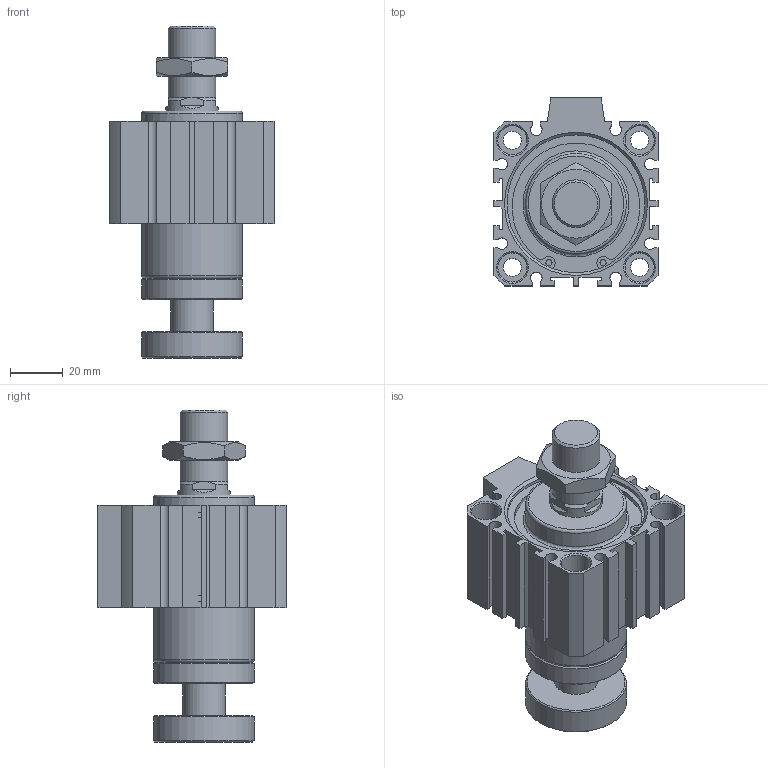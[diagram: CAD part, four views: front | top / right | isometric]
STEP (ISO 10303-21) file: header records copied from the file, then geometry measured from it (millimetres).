
FILE_DESCRIPTION((''),'2;1');
FILE_NAME('I:\3D電子目錄\氣缸\JDAR\JDAR-B\JDAR50-B\JDAR50x10-B.stp','2007-03-22T15:30:45',('662F206'),(''),'Autodesk Inventor 11','Autodesk Inventor 11','');
FILE_SCHEMA(('AUTOMOTIVE_DESIGN { 1 0 10303 214 1 1 1 1 }'));
Length unit declared in the file: millimetre
Products named in the file (3): JDAR50-B; R 形環 52
Assembly tree (3 placements, depth 2):
  JDAR50-B
    JDAR50-B
    R 形環 52  x2
Bounding box: 62 x 71 x 125.3 mm (x, y, z)
Volume: 184112.7 mm3; surface area: 44247.3 mm2
Topology: 3 solids, 3 shells, 204 faces, 493 edges, 321 vertices
Faces by surface type: plane 119, cylinder 56, cone 25, bspline 2, torus 2
Full cylindrical faces by diameter (mm): 2.3 x4, 2.7 x2, 6.8 x4, 11 x8, 16 x1, 18 x2, 20 x1, 38 x4, 52 x4, 55 x2
Entity records: 5422 total; most frequent: CARTESIAN_POINT 1023, DIRECTION 907, ORIENTED_EDGE 804, EDGE_CURVE 402, AXIS2_PLACEMENT_3D 329, VERTEX_POINT 295, EDGE_LOOP 285, VECTOR 249
